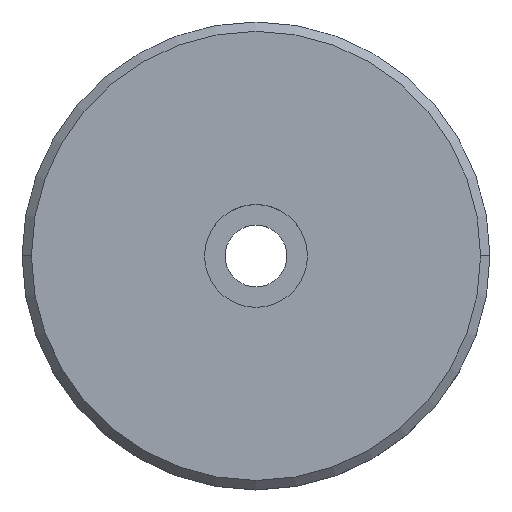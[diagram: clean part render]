
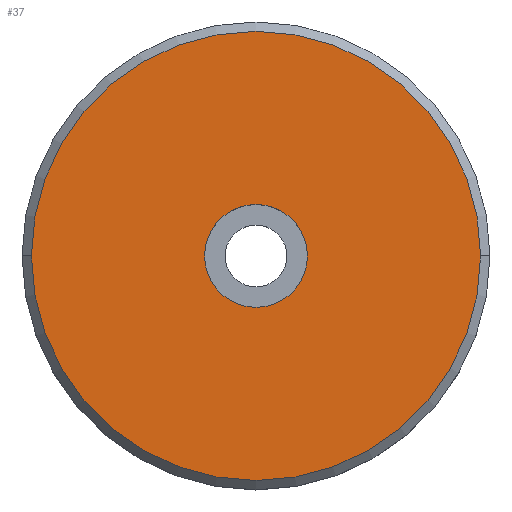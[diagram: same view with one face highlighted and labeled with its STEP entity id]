
A CAD part, top view. The second image highlights one B-rep face of the part: STEP entity #37.
In plain terms, the highlighted planar face has unit normal (0, 0, 1).
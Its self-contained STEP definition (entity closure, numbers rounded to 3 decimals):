
#7 = DIRECTION ( 'NONE',  ( 1., 0., 0. ) ) ;
#20 = CARTESIAN_POINT ( 'NONE',  ( 0., 0., 12. ) ) ;
#22 = DIRECTION ( 'NONE',  ( 0., 0., 1. ) ) ;
#25 = VERTEX_POINT ( 'NONE', #282 ) ;
#37 = ADVANCED_FACE ( 'NONE', ( #109, #245 ), #371, .T. ) ;
#38 = DIRECTION ( 'NONE',  ( 0., 0., 1. ) ) ;
#45 = CARTESIAN_POINT ( 'NONE',  ( -5.5, 0., 12. ) ) ;
#52 = CARTESIAN_POINT ( 'NONE',  ( 5.5, 0., 12. ) ) ;
#55 = DIRECTION ( 'NONE',  ( 1., 0., 0. ) ) ;
#65 = EDGE_LOOP ( 'NONE', ( #162, #401 ) ) ;
#80 = EDGE_CURVE ( 'NONE', #333, #25, #211, .T. ) ;
#82 = DIRECTION ( 'NONE',  ( 0., 0., 1. ) ) ;
#90 = VERTEX_POINT ( 'NONE', #45 ) ;
#109 = FACE_OUTER_BOUND ( 'NONE', #302, .T. ) ;
#110 = EDGE_CURVE ( 'NONE', #90, #200, #351, .T. ) ;
#113 = DIRECTION ( 'NONE',  ( 1., 0., 0. ) ) ;
#116 = DIRECTION ( 'NONE',  ( 1., 0., 0. ) ) ;
#127 = AXIS2_PLACEMENT_3D ( 'NONE', #244, #82, #7 ) ;
#162 = ORIENTED_EDGE ( 'NONE', *, *, #219, .F. ) ;
#174 = AXIS2_PLACEMENT_3D ( 'NONE', #286, #407, #113 ) ;
#200 = VERTEX_POINT ( 'NONE', #52 ) ;
#209 = CARTESIAN_POINT ( 'NONE',  ( 0., 0., 12. ) ) ;
#211 = CIRCLE ( 'NONE', #127, 24. ) ;
#212 = CIRCLE ( 'NONE', #256, 24. ) ;
#219 = EDGE_CURVE ( 'NONE', #200, #90, #319, .T. ) ;
#228 = EDGE_CURVE ( 'NONE', #25, #333, #212, .T. ) ;
#232 = CARTESIAN_POINT ( 'NONE',  ( -24., 0., 12. ) ) ;
#242 = AXIS2_PLACEMENT_3D ( 'NONE', #20, #255, #348 ) ;
#244 = CARTESIAN_POINT ( 'NONE',  ( 0., 0., 12. ) ) ;
#245 = FACE_BOUND ( 'NONE', #65, .T. ) ;
#255 = DIRECTION ( 'NONE',  ( 0., 0., 1. ) ) ;
#256 = AXIS2_PLACEMENT_3D ( 'NONE', #322, #22, #55 ) ;
#282 = CARTESIAN_POINT ( 'NONE',  ( 24., 0., 12. ) ) ;
#286 = CARTESIAN_POINT ( 'NONE',  ( 0., 0., 12. ) ) ;
#302 = EDGE_LOOP ( 'NONE', ( #304, #306 ) ) ;
#304 = ORIENTED_EDGE ( 'NONE', *, *, #80, .T. ) ;
#306 = ORIENTED_EDGE ( 'NONE', *, *, #228, .T. ) ;
#319 = CIRCLE ( 'NONE', #242, 5.5 ) ;
#322 = CARTESIAN_POINT ( 'NONE',  ( 0., 0., 12. ) ) ;
#333 = VERTEX_POINT ( 'NONE', #232 ) ;
#344 = AXIS2_PLACEMENT_3D ( 'NONE', #209, #38, #116 ) ;
#348 = DIRECTION ( 'NONE',  ( 1., 0., 0. ) ) ;
#351 = CIRCLE ( 'NONE', #174, 5.5 ) ;
#371 = PLANE ( 'NONE',  #344 ) ;
#401 = ORIENTED_EDGE ( 'NONE', *, *, #110, .F. ) ;
#407 = DIRECTION ( 'NONE',  ( 0., 0., 1. ) ) ;
